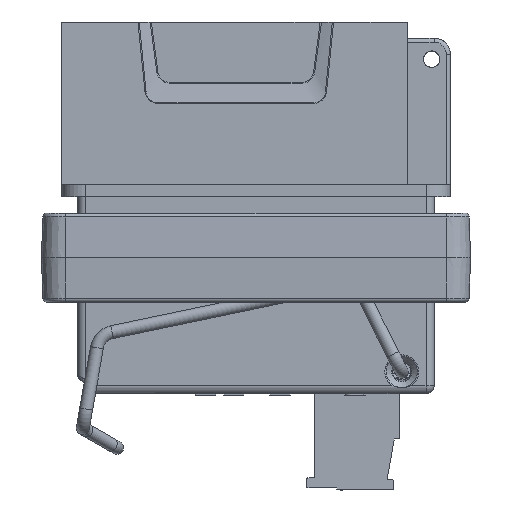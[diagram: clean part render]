
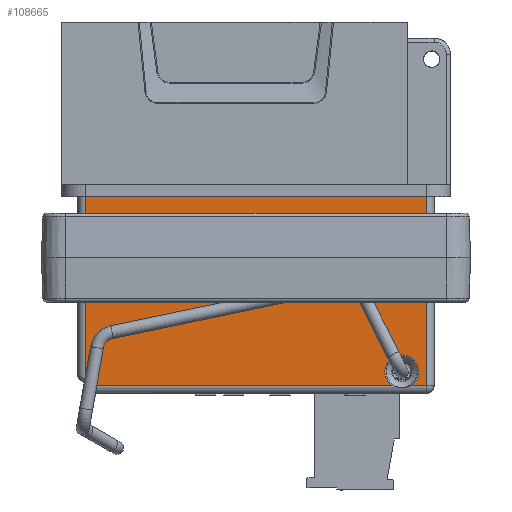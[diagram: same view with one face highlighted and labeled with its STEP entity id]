
A CAD part, left-side view. The second image highlights one B-rep face of the part: STEP entity #108665.
In plain terms, the highlighted planar face has unit normal (-1, 0, 0).
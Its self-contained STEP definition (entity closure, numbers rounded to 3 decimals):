
#4931 = EDGE_CURVE ( 'NONE', #174768, #174389, #202548, .T. ) ;
#5695 = CARTESIAN_POINT ( 'NONE',  ( -45.5, 21., -25.993 ) ) ;
#11328 = ORIENTED_EDGE ( 'NONE', *, *, #21750, .T. ) ;
#17766 = LINE ( 'NONE', #183690, #214672 ) ;
#19148 = PLANE ( 'NONE',  #46856 ) ;
#20438 = CARTESIAN_POINT ( 'NONE',  ( -45.5, -16.797, -26.7 ) ) ;
#21750 = EDGE_CURVE ( 'NONE', #158361, #174768, #86026, .T. ) ;
#26002 = CARTESIAN_POINT ( 'NONE',  ( -45.5, 20.293, -26.7 ) ) ;
#30766 = EDGE_LOOP ( 'NONE', ( #96194, #174164, #175123, #261091, #113466, #11328, #179432 ) ) ;
#32924 = EDGE_CURVE ( 'NONE', #158361, #68168, #99020, .T. ) ;
#36746 = CARTESIAN_POINT ( 'NONE',  ( -45.5, -18., -25. ) ) ;
#40520 = DIRECTION ( 'NONE',  ( 0., -0.707, -0.707 ) ) ;
#41417 = CARTESIAN_POINT ( 'NONE',  ( -45.5, -22., 0. ) ) ;
#43998 = CARTESIAN_POINT ( 'NONE',  ( -45.5, -21., -27.7 ) ) ;
#44591 = DIRECTION ( 'NONE',  ( 0., 0., -1. ) ) ;
#46856 = AXIS2_PLACEMENT_3D ( 'NONE', #229041, #81871, #143519 ) ;
#49133 = EDGE_CURVE ( 'NONE', #76210, #74490, #151235, .T. ) ;
#63219 = CARTESIAN_POINT ( 'NONE',  ( -45.5, 21., 0. ) ) ;
#68168 = VERTEX_POINT ( 'NONE', #249406 ) ;
#74490 = VERTEX_POINT ( 'NONE', #208498 ) ;
#76210 = VERTEX_POINT ( 'NONE', #20438 ) ;
#81871 = DIRECTION ( 'NONE',  ( -1., 0., 0. ) ) ;
#83154 = EDGE_CURVE ( 'NONE', #89656, #68168, #122944, .T. ) ;
#86026 = LINE ( 'NONE', #246692, #122735 ) ;
#86690 = VECTOR ( 'NONE', #121457, 1000. ) ;
#89656 = VERTEX_POINT ( 'NONE', #221771 ) ;
#96194 = ORIENTED_EDGE ( 'NONE', *, *, #244195, .T. ) ;
#99020 = LINE ( 'NONE', #41417, #165234 ) ;
#103377 = VECTOR ( 'NONE', #40520, 1000. ) ;
#108665 = ADVANCED_FACE ( 'NONE', ( #260160 ), #19148, .T. ) ;
#113466 = ORIENTED_EDGE ( 'NONE', *, *, #32924, .F. ) ;
#115719 = DIRECTION ( 'NONE',  ( 1., 0., 0. ) ) ;
#121457 = DIRECTION ( 'NONE',  ( 0., -1., 0. ) ) ;
#122735 = VECTOR ( 'NONE', #44591, 1000. ) ;
#122944 = LINE ( 'NONE', #43998, #208629 ) ;
#124639 = DIRECTION ( 'NONE',  ( 0., -1., 0. ) ) ;
#143519 = DIRECTION ( 'NONE',  ( 0., 0., 1. ) ) ;
#151235 = CIRCLE ( 'NONE', #245166, 2.083 ) ;
#158064 = EDGE_CURVE ( 'NONE', #74490, #89656, #245918, .T. ) ;
#158361 = VERTEX_POINT ( 'NONE', #63219 ) ;
#162359 = CARTESIAN_POINT ( 'NONE',  ( -45.5, 20.646, -26.346 ) ) ;
#165234 = VECTOR ( 'NONE', #180744, 1000. ) ;
#174164 = ORIENTED_EDGE ( 'NONE', *, *, #49133, .T. ) ;
#174389 = VERTEX_POINT ( 'NONE', #26002 ) ;
#174768 = VERTEX_POINT ( 'NONE', #5695 ) ;
#175123 = ORIENTED_EDGE ( 'NONE', *, *, #158064, .T. ) ;
#179432 = ORIENTED_EDGE ( 'NONE', *, *, #4931, .T. ) ;
#180744 = DIRECTION ( 'NONE',  ( 0., -1., 0. ) ) ;
#183690 = CARTESIAN_POINT ( 'NONE',  ( -45.5, -22., -26.7 ) ) ;
#200105 = DIRECTION ( 'NONE',  ( 0., 0., 1. ) ) ;
#202548 = LINE ( 'NONE', #162359, #103377 ) ;
#204687 = DIRECTION ( 'NONE',  ( 0., 0., 1. ) ) ;
#208498 = CARTESIAN_POINT ( 'NONE',  ( -45.5, -19.203, -26.7 ) ) ;
#208629 = VECTOR ( 'NONE', #204687, 1000. ) ;
#214672 = VECTOR ( 'NONE', #124639, 1000. ) ;
#221771 = CARTESIAN_POINT ( 'NONE',  ( -45.5, -21., -26.7 ) ) ;
#221881 = CARTESIAN_POINT ( 'NONE',  ( -45.5, -22., -26.7 ) ) ;
#229041 = CARTESIAN_POINT ( 'NONE',  ( -45.5, -22., -27.7 ) ) ;
#244195 = EDGE_CURVE ( 'NONE', #174389, #76210, #17766, .T. ) ;
#245166 = AXIS2_PLACEMENT_3D ( 'NONE', #36746, #115719, #200105 ) ;
#245918 = LINE ( 'NONE', #221881, #86690 ) ;
#246692 = CARTESIAN_POINT ( 'NONE',  ( -45.5, 21., -27.7 ) ) ;
#249406 = CARTESIAN_POINT ( 'NONE',  ( -45.5, -21., 0. ) ) ;
#260160 = FACE_OUTER_BOUND ( 'NONE', #30766, .T. ) ;
#261091 = ORIENTED_EDGE ( 'NONE', *, *, #83154, .T. ) ;
